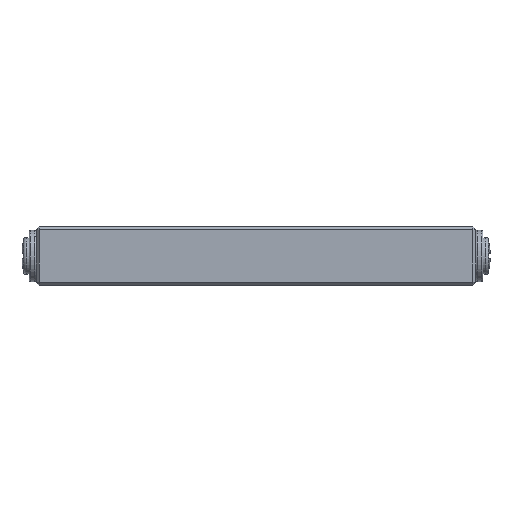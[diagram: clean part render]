
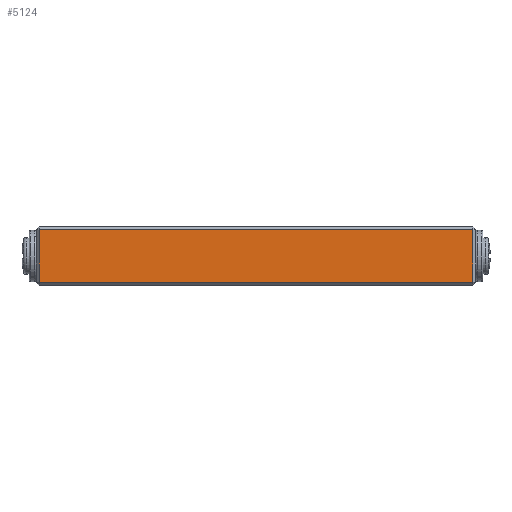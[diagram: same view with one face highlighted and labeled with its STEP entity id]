
A CAD part, top view. The second image highlights one B-rep face of the part: STEP entity #5124.
In plain terms, the highlighted planar face has unit normal (0, 0, 1) as drawn and (0, 0, -1) by its records, which use the part's own axes.
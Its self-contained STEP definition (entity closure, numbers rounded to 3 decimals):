
#443 = ORIENTED_EDGE ( 'NONE', *, *, #2520, .T. ) ;
#689 = ORIENTED_EDGE ( 'NONE', *, *, #24138, .T. ) ;
#868 = EDGE_LOOP ( 'NONE', ( #4797, #443, #689, #4209 ) ) ;
#1034 = CARTESIAN_POINT ( 'NONE',  ( 14.8, 1.8, 0. ) ) ;
#1324 = VECTOR ( 'NONE', #23455, 1000. ) ;
#1333 = VECTOR ( 'NONE', #14514, 1000. ) ;
#1339 = CARTESIAN_POINT ( 'NONE',  ( -15., 1.8, 0. ) ) ;
#1432 = CARTESIAN_POINT ( 'NONE',  ( -14.8, -2., 0. ) ) ;
#2204 = DIRECTION ( 'NONE',  ( 0., 1., 0. ) ) ;
#2331 = FACE_OUTER_BOUND ( 'NONE', #868, .T. ) ;
#2455 = DIRECTION ( 'NONE',  ( 0., 0., -1. ) ) ;
#2520 = EDGE_CURVE ( 'NONE', #16440, #4900, #20140, .T. ) ;
#3037 = CARTESIAN_POINT ( 'NONE',  ( 14.8, -2., 0. ) ) ;
#4209 = ORIENTED_EDGE ( 'NONE', *, *, #10385, .T. ) ;
#4797 = ORIENTED_EDGE ( 'NONE', *, *, #18953, .T. ) ;
#4900 = VERTEX_POINT ( 'NONE', #10437 ) ;
#5124 = ADVANCED_FACE ( 'NONE', ( #2331 ), #19294, .T. ) ;
#7792 = CARTESIAN_POINT ( 'NONE',  ( -14.8, -1.8, 0. ) ) ;
#9678 = CARTESIAN_POINT ( 'NONE',  ( -15., -2., 0. ) ) ;
#10385 = EDGE_CURVE ( 'NONE', #13380, #12588, #10777, .T. ) ;
#10437 = CARTESIAN_POINT ( 'NONE',  ( 14.8, -1.8, 0. ) ) ;
#10777 = LINE ( 'NONE', #1432, #11824 ) ;
#11701 = CARTESIAN_POINT ( 'NONE',  ( -15., -1.8, 0. ) ) ;
#11730 = AXIS2_PLACEMENT_3D ( 'NONE', #9678, #2455, #2204 ) ;
#11824 = VECTOR ( 'NONE', #22388, 1000. ) ;
#12588 = VERTEX_POINT ( 'NONE', #15371 ) ;
#13380 = VERTEX_POINT ( 'NONE', #7792 ) ;
#14514 = DIRECTION ( 'NONE',  ( 0., -1., 0. ) ) ;
#15371 = CARTESIAN_POINT ( 'NONE',  ( -14.8, 1.8, 0. ) ) ;
#15850 = LINE ( 'NONE', #11701, #1324 ) ;
#16440 = VERTEX_POINT ( 'NONE', #1034 ) ;
#17952 = LINE ( 'NONE', #1339, #19544 ) ;
#18953 = EDGE_CURVE ( 'NONE', #12588, #16440, #17952, .T. ) ;
#19294 = PLANE ( 'NONE',  #11730 ) ;
#19544 = VECTOR ( 'NONE', #19820, 1000. ) ;
#19820 = DIRECTION ( 'NONE',  ( 1., 0., 0. ) ) ;
#20140 = LINE ( 'NONE', #3037, #1333 ) ;
#22388 = DIRECTION ( 'NONE',  ( 0., 1., 0. ) ) ;
#23455 = DIRECTION ( 'NONE',  ( -1., 0., 0. ) ) ;
#24138 = EDGE_CURVE ( 'NONE', #4900, #13380, #15850, .T. ) ;
